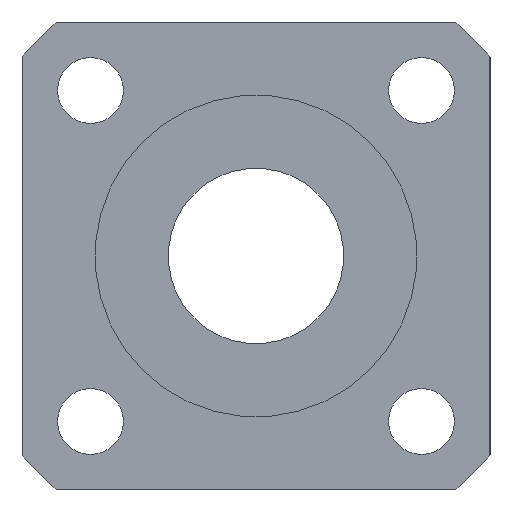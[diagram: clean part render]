
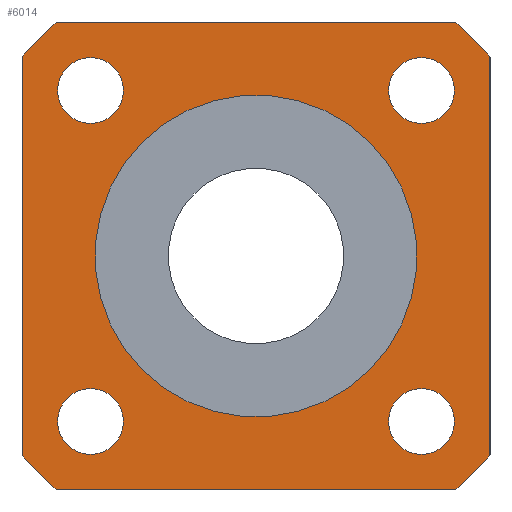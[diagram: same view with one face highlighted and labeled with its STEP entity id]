
A CAD part, left-side view. The second image highlights one B-rep face of the part: STEP entity #6014.
In plain terms, the highlighted planar face has unit normal (-1, 0, 0).
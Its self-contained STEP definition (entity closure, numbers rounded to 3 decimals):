
#107=CIRCLE('',#6378,21.);
#108=CIRCLE('',#6380,21.);
#109=CIRCLE('',#6382,21.);
#119=CIRCLE('',#6397,11.);
#121=CIRCLE('',#6402,21.);
#122=CIRCLE('',#6403,2.25);
#123=CIRCLE('',#6404,2.25);
#124=CIRCLE('',#6405,2.25);
#125=CIRCLE('',#6406,2.25);
#349=LINE('',#9497,#1070);
#350=LINE('',#9498,#1071);
#351=LINE('',#9499,#1072);
#352=LINE('',#9503,#1073);
#1070=VECTOR('',#6986,1000.);
#1071=VECTOR('',#6987,1000.);
#1072=VECTOR('',#6988,1000.);
#1073=VECTOR('',#6991,1000.);
#1871=ORIENTED_EDGE('',*,*,#3607,.T.);
#1872=ORIENTED_EDGE('',*,*,#3590,.F.);
#1873=ORIENTED_EDGE('',*,*,#3608,.T.);
#1874=ORIENTED_EDGE('',*,*,#3593,.F.);
#1875=ORIENTED_EDGE('',*,*,#3609,.T.);
#1876=ORIENTED_EDGE('',*,*,#3610,.F.);
#1877=ORIENTED_EDGE('',*,*,#3611,.T.);
#1878=ORIENTED_EDGE('',*,*,#3588,.F.);
#1879=ORIENTED_EDGE('',*,*,#3612,.T.);
#1880=ORIENTED_EDGE('',*,*,#3613,.T.);
#1881=ORIENTED_EDGE('',*,*,#3614,.T.);
#1882=ORIENTED_EDGE('',*,*,#3615,.T.);
#1883=ORIENTED_EDGE('',*,*,#3605,.T.);
#3588=EDGE_CURVE('',#4458,#4459,#107,.T.);
#3590=EDGE_CURVE('',#4460,#4461,#108,.T.);
#3593=EDGE_CURVE('',#4462,#4463,#109,.T.);
#3605=EDGE_CURVE('',#4473,#4473,#119,.T.);
#3607=EDGE_CURVE('',#4458,#4461,#349,.T.);
#3608=EDGE_CURVE('',#4460,#4463,#350,.T.);
#3609=EDGE_CURVE('',#4462,#4475,#351,.T.);
#3610=EDGE_CURVE('',#4476,#4475,#121,.T.);
#3611=EDGE_CURVE('',#4476,#4459,#352,.T.);
#3612=EDGE_CURVE('',#4477,#4477,#122,.T.);
#3613=EDGE_CURVE('',#4478,#4478,#123,.T.);
#3614=EDGE_CURVE('',#4479,#4479,#124,.T.);
#3615=EDGE_CURVE('',#4480,#4480,#125,.T.);
#4458=VERTEX_POINT('',#9451);
#4459=VERTEX_POINT('',#9453);
#4460=VERTEX_POINT('',#9457);
#4461=VERTEX_POINT('',#9458);
#4462=VERTEX_POINT('',#9463);
#4463=VERTEX_POINT('',#9464);
#4473=VERTEX_POINT('',#9491);
#4475=VERTEX_POINT('',#9500);
#4476=VERTEX_POINT('',#9502);
#4477=VERTEX_POINT('',#9505);
#4478=VERTEX_POINT('',#9507);
#4479=VERTEX_POINT('',#9509);
#4480=VERTEX_POINT('',#9511);
#4950=EDGE_LOOP('',(#1871,#1872,#1873,#1874,#1875,#1876,#1877,#1878));
#4951=EDGE_LOOP('',(#1879));
#4952=EDGE_LOOP('',(#1880));
#4953=EDGE_LOOP('',(#1881));
#4954=EDGE_LOOP('',(#1882));
#4955=EDGE_LOOP('',(#1883));
#5371=FACE_BOUND('',#4950,.T.);
#5372=FACE_BOUND('',#4951,.T.);
#5373=FACE_BOUND('',#4952,.T.);
#5374=FACE_BOUND('',#4953,.T.);
#5375=FACE_BOUND('',#4954,.T.);
#5376=FACE_BOUND('',#4955,.T.);
#5736=PLANE('',#6401);
#6014=ADVANCED_FACE('',(#5371,#5372,#5373,#5374,#5375,#5376),#5736,.F.);
#6378=AXIS2_PLACEMENT_3D('',#9452,#6933,#6934);
#6380=AXIS2_PLACEMENT_3D('',#9456,#6938,#6939);
#6382=AXIS2_PLACEMENT_3D('',#9462,#6944,#6945);
#6397=AXIS2_PLACEMENT_3D('',#9490,#6976,#6977);
#6401=AXIS2_PLACEMENT_3D('',#9496,#6984,#6985);
#6402=AXIS2_PLACEMENT_3D('',#9501,#6989,#6990);
#6403=AXIS2_PLACEMENT_3D('',#9504,#6992,#6993);
#6404=AXIS2_PLACEMENT_3D('',#9506,#6994,#6995);
#6405=AXIS2_PLACEMENT_3D('',#9508,#6996,#6997);
#6406=AXIS2_PLACEMENT_3D('',#9510,#6998,#6999);
#6933=DIRECTION('',(1.,0.,0.));
#6934=DIRECTION('',(0.,0.707,-0.707));
#6938=DIRECTION('',(1.,0.,0.));
#6939=DIRECTION('',(0.,0.707,-0.707));
#6944=DIRECTION('',(1.,0.,0.));
#6945=DIRECTION('',(0.,0.707,-0.707));
#6976=DIRECTION('',(1.,0.,0.));
#6977=DIRECTION('',(0.,0.707,-0.707));
#6984=DIRECTION('',(1.,0.,0.));
#6985=DIRECTION('',(0.,0.707,-0.707));
#6986=DIRECTION('',(0.,0.,1.));
#6987=DIRECTION('',(0.,1.,0.));
#6988=DIRECTION('',(0.,0.,-1.));
#6989=DIRECTION('',(1.,0.,0.));
#6990=DIRECTION('',(0.,0.707,-0.707));
#6991=DIRECTION('',(0.,-1.,0.));
#6992=DIRECTION('',(1.,0.,0.));
#6993=DIRECTION('',(0.,0.707,-0.707));
#6994=DIRECTION('',(1.,0.,0.));
#6995=DIRECTION('',(0.,0.707,-0.707));
#6996=DIRECTION('',(1.,0.,0.));
#6997=DIRECTION('',(0.,0.707,-0.707));
#6998=DIRECTION('',(1.,0.,0.));
#6999=DIRECTION('',(0.,0.707,-0.707));
#9451=CARTESIAN_POINT('',(24.5,-16.,-13.601));
#9452=CARTESIAN_POINT('',(24.5,0.,0.));
#9453=CARTESIAN_POINT('',(24.5,-13.601,-16.));
#9456=CARTESIAN_POINT('',(24.5,0.,0.));
#9457=CARTESIAN_POINT('',(24.5,-13.601,16.));
#9458=CARTESIAN_POINT('',(24.5,-16.,13.601));
#9462=CARTESIAN_POINT('',(24.5,0.,0.));
#9463=CARTESIAN_POINT('',(24.5,16.,13.601));
#9464=CARTESIAN_POINT('',(24.5,13.601,16.));
#9490=CARTESIAN_POINT('',(24.5,0.,0.));
#9491=CARTESIAN_POINT('',(24.5,7.778,-7.778));
#9496=CARTESIAN_POINT('',(24.5,0.,0.));
#9497=CARTESIAN_POINT('',(24.5,-16.,16.));
#9498=CARTESIAN_POINT('',(24.5,16.,16.));
#9499=CARTESIAN_POINT('',(24.5,16.,-16.));
#9500=CARTESIAN_POINT('',(24.5,16.,-13.601));
#9501=CARTESIAN_POINT('',(24.5,0.,0.));
#9502=CARTESIAN_POINT('',(24.5,13.601,-16.));
#9503=CARTESIAN_POINT('',(24.5,-16.,-16.));
#9504=CARTESIAN_POINT('',(24.5,11.314,-11.314));
#9505=CARTESIAN_POINT('',(24.5,12.905,-12.905));
#9506=CARTESIAN_POINT('',(24.5,-11.314,-11.314));
#9507=CARTESIAN_POINT('',(24.5,-9.723,-12.905));
#9508=CARTESIAN_POINT('',(24.5,-11.314,11.314));
#9509=CARTESIAN_POINT('',(24.5,-9.723,9.723));
#9510=CARTESIAN_POINT('',(24.5,11.314,11.314));
#9511=CARTESIAN_POINT('',(24.5,12.905,9.723));
